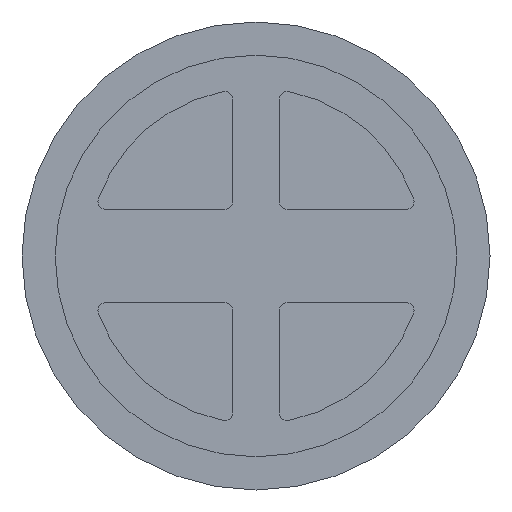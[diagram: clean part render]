
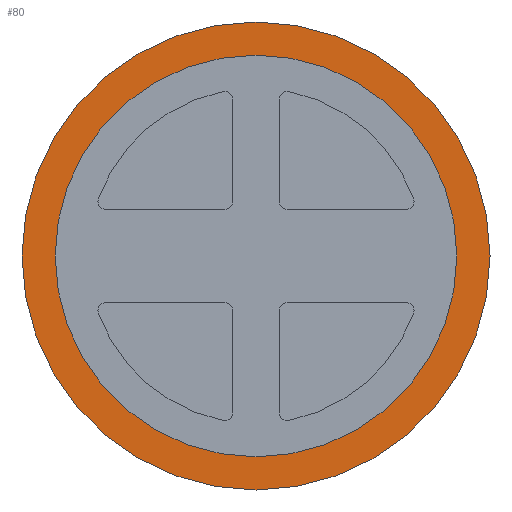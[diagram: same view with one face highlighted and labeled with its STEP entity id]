
A CAD part, front view. The second image highlights one B-rep face of the part: STEP entity #80.
In plain terms, the highlighted planar face has unit normal (0, -1, 0).
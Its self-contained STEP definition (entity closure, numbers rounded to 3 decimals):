
#39 = AXIS2_PLACEMENT_3D ( 'NONE', #999, #3356, #2615 ) ;
#80 = ADVANCED_FACE ( 'NONE', ( #481, #3102 ), #2306, .F. ) ;
#81 = CIRCLE ( 'NONE', #524, 25.75 ) ;
#133 = AXIS2_PLACEMENT_3D ( 'NONE', #2407, #3481, #2485 ) ;
#383 = DIRECTION ( 'NONE',  ( 0., 0., 1. ) ) ;
#417 = VERTEX_POINT ( 'NONE', #495 ) ;
#481 = FACE_BOUND ( 'NONE', #794, .T. ) ;
#495 = CARTESIAN_POINT ( 'NONE',  ( 0., 2., 25.75 ) ) ;
#524 = AXIS2_PLACEMENT_3D ( 'NONE', #2030, #3038, #383 ) ;
#591 = AXIS2_PLACEMENT_3D ( 'NONE', #3431, #1795, #1829 ) ;
#693 = CIRCLE ( 'NONE', #2062, 25.75 ) ;
#794 = EDGE_LOOP ( 'NONE', ( #2360, #2532 ) ) ;
#999 = CARTESIAN_POINT ( 'NONE',  ( 0., 2., 0. ) ) ;
#1052 = ORIENTED_EDGE ( 'NONE', *, *, #1645, .F. ) ;
#1136 = CARTESIAN_POINT ( 'NONE',  ( 0., 2., -30. ) ) ;
#1356 = ORIENTED_EDGE ( 'NONE', *, *, #3418, .F. ) ;
#1444 = VERTEX_POINT ( 'NONE', #2137 ) ;
#1637 = CIRCLE ( 'NONE', #133, 30. ) ;
#1645 = EDGE_CURVE ( 'NONE', #1915, #2162, #3298, .T. ) ;
#1795 = DIRECTION ( 'NONE',  ( 0., 1., 0. ) ) ;
#1829 = DIRECTION ( 'NONE',  ( 0., 0., 1. ) ) ;
#1915 = VERTEX_POINT ( 'NONE', #1136 ) ;
#2010 = EDGE_CURVE ( 'NONE', #1444, #417, #693, .T. ) ;
#2030 = CARTESIAN_POINT ( 'NONE',  ( 0., 2., 0. ) ) ;
#2062 = AXIS2_PLACEMENT_3D ( 'NONE', #2557, #2832, #2292 ) ;
#2137 = CARTESIAN_POINT ( 'NONE',  ( 0., 2., -25.75 ) ) ;
#2162 = VERTEX_POINT ( 'NONE', #2930 ) ;
#2292 = DIRECTION ( 'NONE',  ( 0., 0., 1. ) ) ;
#2306 = PLANE ( 'NONE',  #39 ) ;
#2360 = ORIENTED_EDGE ( 'NONE', *, *, #2010, .T. ) ;
#2407 = CARTESIAN_POINT ( 'NONE',  ( 0., 2., 0. ) ) ;
#2485 = DIRECTION ( 'NONE',  ( 0., 0., 1. ) ) ;
#2532 = ORIENTED_EDGE ( 'NONE', *, *, #3066, .T. ) ;
#2557 = CARTESIAN_POINT ( 'NONE',  ( 0., 2., 0. ) ) ;
#2615 = DIRECTION ( 'NONE',  ( 0., 0., 1. ) ) ;
#2832 = DIRECTION ( 'NONE',  ( 0., 1., 0. ) ) ;
#2930 = CARTESIAN_POINT ( 'NONE',  ( 0., 2., 30. ) ) ;
#3038 = DIRECTION ( 'NONE',  ( 0., 1., 0. ) ) ;
#3066 = EDGE_CURVE ( 'NONE', #417, #1444, #81, .T. ) ;
#3102 = FACE_OUTER_BOUND ( 'NONE', #3427, .T. ) ;
#3298 = CIRCLE ( 'NONE', #591, 30. ) ;
#3356 = DIRECTION ( 'NONE',  ( 0., 1., 0. ) ) ;
#3418 = EDGE_CURVE ( 'NONE', #2162, #1915, #1637, .T. ) ;
#3427 = EDGE_LOOP ( 'NONE', ( #1052, #1356 ) ) ;
#3431 = CARTESIAN_POINT ( 'NONE',  ( 0., 2., 0. ) ) ;
#3481 = DIRECTION ( 'NONE',  ( 0., 1., 0. ) ) ;
